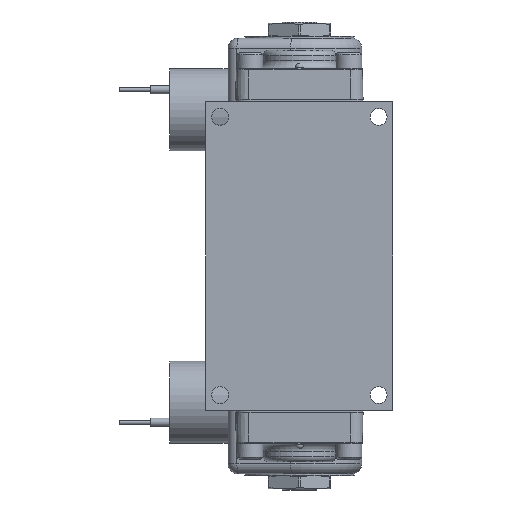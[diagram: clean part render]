
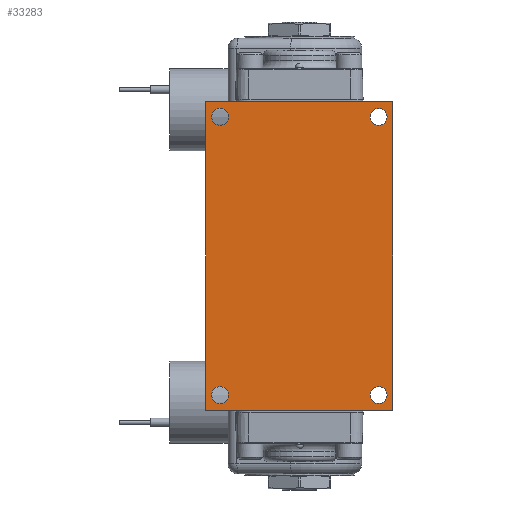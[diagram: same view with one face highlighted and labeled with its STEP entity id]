
A CAD part, front view. The second image highlights one B-rep face of the part: STEP entity #33283.
In plain terms, the highlighted planar face has unit normal (0, -1, 0).
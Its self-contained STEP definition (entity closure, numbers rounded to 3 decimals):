
#1155=FACE_BOUND('',#9363,.T.);
#1156=FACE_BOUND('',#9364,.T.);
#1157=FACE_BOUND('',#9365,.T.);
#1158=FACE_BOUND('',#9366,.T.);
#1953=LINE('',#49374,#4292);
#1961=LINE('',#49399,#4300);
#2185=LINE('',#50495,#4524);
#2427=LINE('',#51919,#4766);
#4292=VECTOR('',#39370,1.);
#4300=VECTOR('',#39388,1.);
#4524=VECTOR('',#39840,1.);
#4766=VECTOR('',#40236,1.);
#7348=FACE_OUTER_BOUND('',#9362,.T.);
#9362=EDGE_LOOP('',(#23469,#23470,#23471,#23472));
#9363=EDGE_LOOP('',(#23473));
#9364=EDGE_LOOP('',(#23474));
#9365=EDGE_LOOP('',(#23475));
#9366=EDGE_LOOP('',(#23476));
#11335=CIRCLE('',#35557,0.258);
#11336=CIRCLE('',#35559,0.258);
#11337=CIRCLE('',#35561,0.258);
#11338=CIRCLE('',#35563,0.258);
#13017=VERTEX_POINT('',#49371);
#13018=VERTEX_POINT('',#49373);
#13029=VERTEX_POINT('',#49396);
#13030=VERTEX_POINT('',#49398);
#13616=VERTEX_POINT('',#52876);
#13617=VERTEX_POINT('',#52880);
#13618=VERTEX_POINT('',#52884);
#13619=VERTEX_POINT('',#52888);
#16357=EDGE_CURVE('',#13017,#13018,#1953,.T.);
#16369=EDGE_CURVE('',#13029,#13030,#1961,.T.);
#16681=EDGE_CURVE('',#13018,#13029,#2185,.T.);
#17019=EDGE_CURVE('',#13030,#13017,#2427,.T.);
#17230=EDGE_CURVE('',#13616,#13616,#11335,.T.);
#17232=EDGE_CURVE('',#13617,#13617,#11336,.T.);
#17234=EDGE_CURVE('',#13618,#13618,#11337,.T.);
#17236=EDGE_CURVE('',#13619,#13619,#11338,.T.);
#23469=ORIENTED_EDGE('',*,*,#16681,.F.);
#23470=ORIENTED_EDGE('',*,*,#16357,.F.);
#23471=ORIENTED_EDGE('',*,*,#17019,.F.);
#23472=ORIENTED_EDGE('',*,*,#16369,.F.);
#23473=ORIENTED_EDGE('',*,*,#17230,.T.);
#23474=ORIENTED_EDGE('',*,*,#17232,.T.);
#23475=ORIENTED_EDGE('',*,*,#17234,.T.);
#23476=ORIENTED_EDGE('',*,*,#17236,.T.);
#30567=PLANE('',#35599);
#33283=ADVANCED_FACE('',(#7348,#1155,#1156,#1157,#1158),#30567,.F.);
#35557=AXIS2_PLACEMENT_3D('',#52878,#40667,#40668);
#35559=AXIS2_PLACEMENT_3D('',#52882,#40672,#40673);
#35561=AXIS2_PLACEMENT_3D('',#52886,#40677,#40678);
#35563=AXIS2_PLACEMENT_3D('',#52890,#40682,#40683);
#35599=AXIS2_PLACEMENT_3D('',#52961,#40769,#40770);
#39370=DIRECTION('',(-1.,0.,0.));
#39388=DIRECTION('',(1.,0.,0.));
#39840=DIRECTION('',(0.,0.,1.));
#40236=DIRECTION('',(0.,0.,-1.));
#40667=DIRECTION('center_axis',(0.,1.,0.));
#40668=DIRECTION('ref_axis',(-1.,0.,0.));
#40672=DIRECTION('center_axis',(0.,1.,0.));
#40673=DIRECTION('ref_axis',(-1.,0.,0.));
#40677=DIRECTION('center_axis',(0.,1.,0.));
#40678=DIRECTION('ref_axis',(-1.,0.,0.));
#40682=DIRECTION('center_axis',(0.,1.,0.));
#40683=DIRECTION('ref_axis',(-1.,0.,0.));
#40769=DIRECTION('center_axis',(0.,1.,0.));
#40770=DIRECTION('ref_axis',(0.,0.,1.));
#49371=CARTESIAN_POINT('',(2.858,-1.636,-4.71));
#49373=CARTESIAN_POINT('',(-2.858,-1.636,-4.71));
#49374=CARTESIAN_POINT('',(2.858,-1.636,-4.71));
#49396=CARTESIAN_POINT('',(-2.858,-1.636,4.71));
#49398=CARTESIAN_POINT('',(2.858,-1.636,4.71));
#49399=CARTESIAN_POINT('',(-2.858,-1.636,4.71));
#50495=CARTESIAN_POINT('',(-2.858,-1.636,-4.71));
#51919=CARTESIAN_POINT('',(2.858,-1.636,4.71));
#52876=CARTESIAN_POINT('',(-2.163,-1.636,-4.247));
#52878=CARTESIAN_POINT('Origin',(-2.421,-1.636,-4.247));
#52880=CARTESIAN_POINT('',(-2.163,-1.636,4.247));
#52882=CARTESIAN_POINT('Origin',(-2.421,-1.636,4.247));
#52884=CARTESIAN_POINT('',(2.678,-1.636,-4.247));
#52886=CARTESIAN_POINT('Origin',(2.421,-1.636,-4.247));
#52888=CARTESIAN_POINT('',(2.678,-1.636,4.247));
#52890=CARTESIAN_POINT('Origin',(2.421,-1.636,4.247));
#52961=CARTESIAN_POINT('Origin',(0.,-1.636,0.));
